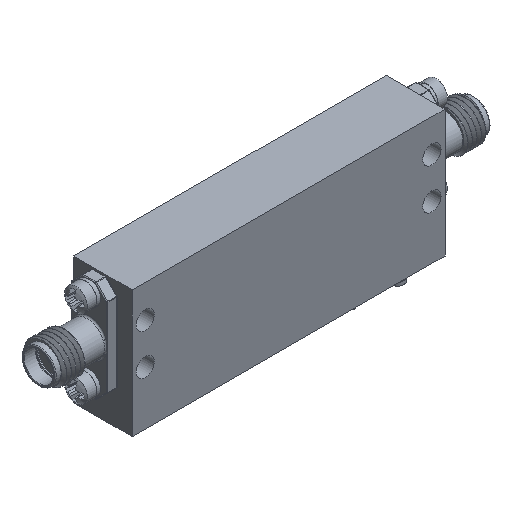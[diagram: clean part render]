
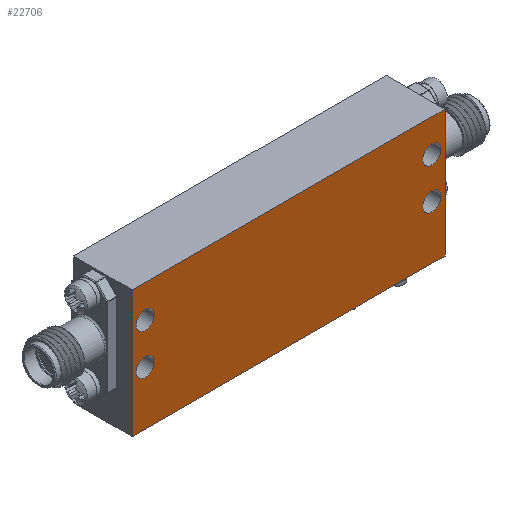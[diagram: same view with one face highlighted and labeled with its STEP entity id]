
A CAD part, isometric view. The second image highlights one B-rep face of the part: STEP entity #22706.
In plain terms, the highlighted planar face has unit normal (0, -1, 0).
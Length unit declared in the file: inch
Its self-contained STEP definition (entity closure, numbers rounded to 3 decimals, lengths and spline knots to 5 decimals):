
#283 = EDGE_CURVE ( 'NONE', #13408, #13408, #30196, .T. ) ;
#742 = VECTOR ( 'NONE', #18668, 39.37008 ) ;
#772 = DIRECTION ( 'NONE',  ( 0., 1., 0. ) ) ;
#912 = VERTEX_POINT ( 'NONE', #2276 ) ;
#1107 = CARTESIAN_POINT ( 'NONE',  ( 0.08, 0., -0.394 ) ) ;
#1420 = CARTESIAN_POINT ( 'NONE',  ( 1.84, 0., -0.2 ) ) ;
#1650 = VECTOR ( 'NONE', #4045, 39.37008 ) ;
#1833 = VECTOR ( 'NONE', #32025, 39.37008 ) ;
#1952 = CARTESIAN_POINT ( 'NONE',  ( 0., 0., 0. ) ) ;
#2276 = CARTESIAN_POINT ( 'NONE',  ( 0., 0., 0. ) ) ;
#2413 = VERTEX_POINT ( 'NONE', #12385 ) ;
#2576 = CARTESIAN_POINT ( 'NONE',  ( 1.92, 0., 0. ) ) ;
#2859 = EDGE_CURVE ( 'NONE', #6743, #912, #32362, .T. ) ;
#3145 = EDGE_CURVE ( 'NONE', #26282, #26282, #19554, .T. ) ;
#3149 = DIRECTION ( 'NONE',  ( 0., 0., -1. ) ) ;
#3276 = CARTESIAN_POINT ( 'NONE',  ( 0.08, 0., -0.45 ) ) ;
#3458 = EDGE_CURVE ( 'NONE', #912, #24393, #19011, .T. ) ;
#3991 = EDGE_CURVE ( 'NONE', #16416, #16416, #22589, .T. ) ;
#4045 = DIRECTION ( 'NONE',  ( 1., 0., 0. ) ) ;
#4274 = CARTESIAN_POINT ( 'NONE',  ( 1.92, 0., 0. ) ) ;
#5676 = VECTOR ( 'NONE', #7273, 39.37008 ) ;
#5822 = PLANE ( 'NONE',  #12890 ) ;
#6743 = VERTEX_POINT ( 'NONE', #11921 ) ;
#7273 = DIRECTION ( 'NONE',  ( 0., 0., 1. ) ) ;
#8038 = ORIENTED_EDGE ( 'NONE', *, *, #3458, .F. ) ;
#8295 = CARTESIAN_POINT ( 'NONE',  ( 0., 0., 0. ) ) ;
#8586 = AXIS2_PLACEMENT_3D ( 'NONE', #1420, #8753, #9252 ) ;
#8753 = DIRECTION ( 'NONE',  ( 0., 1., 0. ) ) ;
#9252 = DIRECTION ( 'NONE',  ( 0., 0., 1. ) ) ;
#9397 = AXIS2_PLACEMENT_3D ( 'NONE', #3276, #772, #10919 ) ;
#9943 = CARTESIAN_POINT ( 'NONE',  ( 1.84, 0., -0.45 ) ) ;
#10863 = CARTESIAN_POINT ( 'NONE',  ( 0., 0., -0.78 ) ) ;
#10919 = DIRECTION ( 'NONE',  ( 0., 0., 1. ) ) ;
#10956 = FACE_OUTER_BOUND ( 'NONE', #25294, .T. ) ;
#11072 = AXIS2_PLACEMENT_3D ( 'NONE', #29503, #22396, #31935 ) ;
#11738 = EDGE_CURVE ( 'NONE', #24393, #23024, #13742, .T. ) ;
#11921 = CARTESIAN_POINT ( 'NONE',  ( 0., 0., -0.78 ) ) ;
#12385 = CARTESIAN_POINT ( 'NONE',  ( 0.08, 0., -0.144 ) ) ;
#12550 = ORIENTED_EDGE ( 'NONE', *, *, #14455, .F. ) ;
#12890 = AXIS2_PLACEMENT_3D ( 'NONE', #8295, #25676, #3149 ) ;
#13116 = FACE_BOUND ( 'NONE', #14680, .T. ) ;
#13408 = VERTEX_POINT ( 'NONE', #31210 ) ;
#13742 = LINE ( 'NONE', #4274, #1833 ) ;
#14266 = DIRECTION ( 'NONE',  ( 0., 0., 1. ) ) ;
#14455 = EDGE_CURVE ( 'NONE', #23024, #6743, #25910, .T. ) ;
#14680 = EDGE_LOOP ( 'NONE', ( #32335 ) ) ;
#15634 = FACE_BOUND ( 'NONE', #21325, .T. ) ;
#15802 = FACE_BOUND ( 'NONE', #30011, .T. ) ;
#16416 = VERTEX_POINT ( 'NONE', #1107 ) ;
#16424 = ORIENTED_EDGE ( 'NONE', *, *, #3991, .T. ) ;
#16696 = ORIENTED_EDGE ( 'NONE', *, *, #32174, .T. ) ;
#16936 = DIRECTION ( 'NONE',  ( 0., 1., 0. ) ) ;
#18447 = EDGE_LOOP ( 'NONE', ( #16696 ) ) ;
#18668 = DIRECTION ( 'NONE',  ( -1., 0., 0. ) ) ;
#19011 = LINE ( 'NONE', #29203, #1650 ) ;
#19384 = CARTESIAN_POINT ( 'NONE',  ( 1.92, 0., -0.78 ) ) ;
#19554 = CIRCLE ( 'NONE', #21125, 0.056 ) ;
#19842 = ORIENTED_EDGE ( 'NONE', *, *, #3145, .T. ) ;
#20522 = ORIENTED_EDGE ( 'NONE', *, *, #2859, .F. ) ;
#21125 = AXIS2_PLACEMENT_3D ( 'NONE', #9943, #16936, #14266 ) ;
#21325 = EDGE_LOOP ( 'NONE', ( #16424 ) ) ;
#22396 = DIRECTION ( 'NONE',  ( 0., 1., 0. ) ) ;
#22589 = CIRCLE ( 'NONE', #9397, 0.056 ) ;
#22706 = ADVANCED_FACE ( 'NONE', ( #15634, #26325, #13116, #15802, #10956 ), #5822, .T. ) ;
#23024 = VERTEX_POINT ( 'NONE', #19384 ) ;
#24260 = CIRCLE ( 'NONE', #11072, 0.056 ) ;
#24393 = VERTEX_POINT ( 'NONE', #2576 ) ;
#25294 = EDGE_LOOP ( 'NONE', ( #20522, #12550, #29556, #8038 ) ) ;
#25676 = DIRECTION ( 'NONE',  ( 0., -1., 0. ) ) ;
#25910 = LINE ( 'NONE', #10863, #742 ) ;
#26282 = VERTEX_POINT ( 'NONE', #28923 ) ;
#26325 = FACE_BOUND ( 'NONE', #18447, .T. ) ;
#28923 = CARTESIAN_POINT ( 'NONE',  ( 1.84, 0., -0.394 ) ) ;
#29203 = CARTESIAN_POINT ( 'NONE',  ( 0., 0., 0. ) ) ;
#29503 = CARTESIAN_POINT ( 'NONE',  ( 0.08, 0., -0.2 ) ) ;
#29556 = ORIENTED_EDGE ( 'NONE', *, *, #11738, .F. ) ;
#30011 = EDGE_LOOP ( 'NONE', ( #19842 ) ) ;
#30196 = CIRCLE ( 'NONE', #8586, 0.056 ) ;
#31210 = CARTESIAN_POINT ( 'NONE',  ( 1.84, 0., -0.144 ) ) ;
#31935 = DIRECTION ( 'NONE',  ( 0., 0., 1. ) ) ;
#32025 = DIRECTION ( 'NONE',  ( 0., 0., -1. ) ) ;
#32174 = EDGE_CURVE ( 'NONE', #2413, #2413, #24260, .T. ) ;
#32335 = ORIENTED_EDGE ( 'NONE', *, *, #283, .T. ) ;
#32362 = LINE ( 'NONE', #1952, #5676 ) ;
